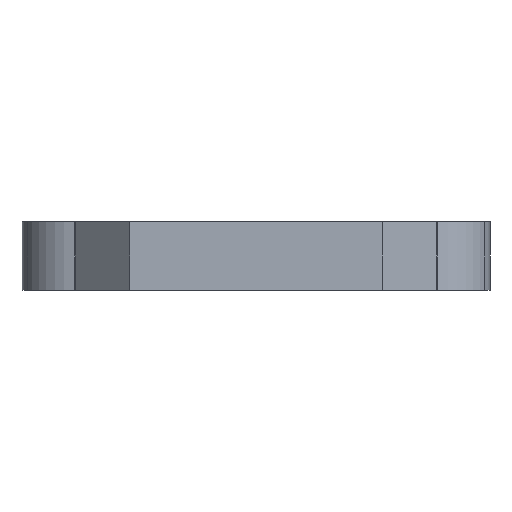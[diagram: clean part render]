
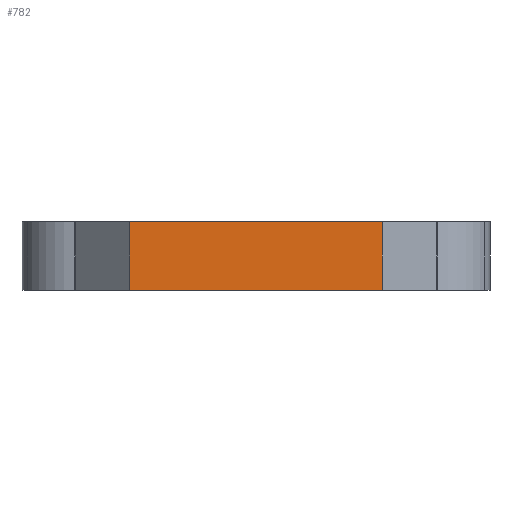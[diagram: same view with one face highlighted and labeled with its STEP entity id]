
A CAD part, front view. The second image highlights one B-rep face of the part: STEP entity #782.
In plain terms, the highlighted planar face has unit normal (0, -1, 0).
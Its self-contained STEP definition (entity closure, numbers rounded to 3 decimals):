
#60=PLANE('',#885);
#79=FACE_OUTER_BOUND('',#140,.T.);
#140=EDGE_LOOP('',(#627,#628,#629,#630));
#172=LINE('',#1204,#227);
#190=LINE('',#1307,#245);
#194=LINE('',#1336,#249);
#196=LINE('',#1339,#251);
#227=VECTOR('',#941,10.);
#245=VECTOR('',#1045,10.);
#249=VECTOR('',#1073,10.);
#251=VECTOR('',#1077,10.);
#342=VERTEX_POINT('',#1200);
#344=VERTEX_POINT('',#1203);
#385=VERTEX_POINT('',#1304);
#386=VERTEX_POINT('',#1306);
#418=EDGE_CURVE('',#344,#342,#172,.T.);
#469=EDGE_CURVE('',#386,#385,#190,.T.);
#484=EDGE_CURVE('',#386,#342,#194,.T.);
#486=EDGE_CURVE('',#344,#385,#196,.T.);
#627=ORIENTED_EDGE('',*,*,#484,.F.);
#628=ORIENTED_EDGE('',*,*,#469,.T.);
#629=ORIENTED_EDGE('',*,*,#486,.F.);
#630=ORIENTED_EDGE('',*,*,#418,.T.);
#782=ADVANCED_FACE('',(#79),#60,.T.);
#885=AXIS2_PLACEMENT_3D('',#1338,#1075,#1076);
#941=DIRECTION('',(-1.,0.,0.));
#1045=DIRECTION('',(1.,0.,0.));
#1073=DIRECTION('',(0.,0.,1.));
#1075=DIRECTION('center_axis',(0.,-1.,0.));
#1076=DIRECTION('ref_axis',(0.,0.,-1.));
#1077=DIRECTION('',(0.,0.,-1.));
#1200=CARTESIAN_POINT('',(-7.,-20.,15.));
#1203=CARTESIAN_POINT('',(7.,-20.,15.));
#1204=CARTESIAN_POINT('',(11.356,-20.,15.));
#1304=CARTESIAN_POINT('',(7.,-20.,11.2));
#1306=CARTESIAN_POINT('',(-7.,-20.,11.2));
#1307=CARTESIAN_POINT('',(11.356,-20.,11.2));
#1336=CARTESIAN_POINT('',(-7.,-20.,15.));
#1338=CARTESIAN_POINT('Origin',(11.356,-20.,15.));
#1339=CARTESIAN_POINT('',(7.,-20.,15.));
